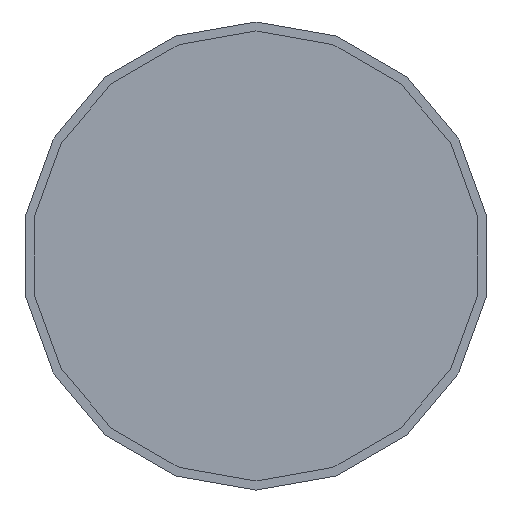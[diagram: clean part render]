
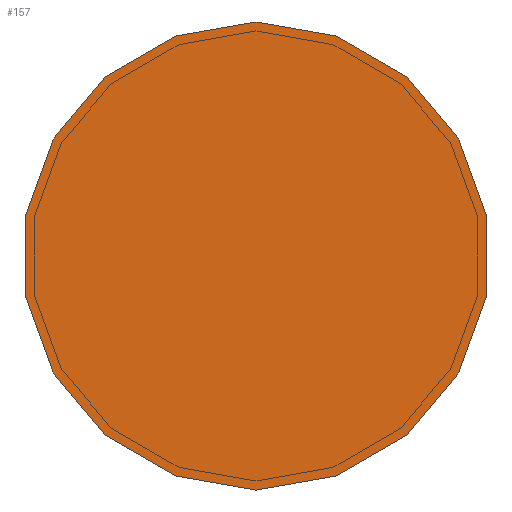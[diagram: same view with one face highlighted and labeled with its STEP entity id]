
A CAD part, left-side view. The second image highlights one B-rep face of the part: STEP entity #157.
In plain terms, the highlighted planar face has unit normal (-1, 0, 0).
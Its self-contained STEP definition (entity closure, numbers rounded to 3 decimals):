
#129 = VERTEX_POINT('',#130);
#130 = CARTESIAN_POINT('',(-5028.,0.,11.44));
#136 = EDGE_CURVE('',#129,#129,#137,.T.);
#137 = CIRCLE('',#138,11.44);
#138 = AXIS2_PLACEMENT_3D('',#139,#140,#141);
#139 = CARTESIAN_POINT('',(-5028.,0.,0.));
#140 = DIRECTION('',(1.,0.,0.));
#141 = DIRECTION('',(-0.,0.,1.));
#157 = ADVANCED_FACE('',(#158),#161,.F.);
#158 = FACE_BOUND('',#159,.T.);
#159 = EDGE_LOOP('',(#160));
#160 = ORIENTED_EDGE('',*,*,#136,.F.);
#161 = PLANE('',#162);
#162 = AXIS2_PLACEMENT_3D('',#163,#164,#165);
#163 = CARTESIAN_POINT('',(-5028.,0.,0.));
#164 = DIRECTION('',(1.,0.,0.));
#165 = DIRECTION('',(-0.,0.,1.));
